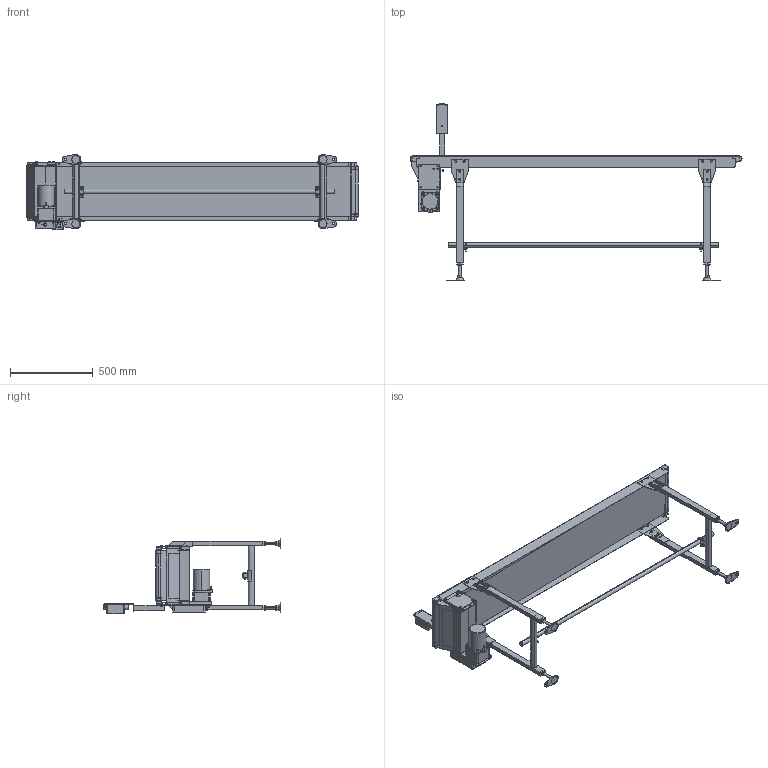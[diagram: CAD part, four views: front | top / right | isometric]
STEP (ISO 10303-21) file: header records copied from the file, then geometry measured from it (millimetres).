
FILE_DESCRIPTION( (''), '2;1');
FILE_NAME ('FSD-EUD-309-300-200-R-K-60.stp','2025-01-30T17:00:24',(''),(''),'spGate 20.6.2 (****-****-****-****)','','');
FILE_SCHEMA (('AUTOMOTIVE_DESIGN'));
Length unit declared in the file: millimetre
Products named in the file (60): NewModel; TEMP_X_T-prt0; TEMP_X_T-prt1; TEMP_X_T-prt2; TEMP_X_T-prt3; TEMP_X_T-prt4; TEMP_X_T-prt5; TEMP_X_T-prt6; TEMP_X_T-prt7; TEMP_X_T-prt8; TEMP_X_T-prt9; TEMP_X_T-prt10; TEMP_X_T-prt11; TEMP_X_T-prt12; TEMP_X_T-prt13; TEMP_X_T-prt14; TEMP_X_T-prt15; TEMP_X_T-prt16; TEMP_X_T-prt17; TEMP_X_T-prt18; TEMP_X_T-prt19; TEMP_X_T-prt20; TEMP_X_T-prt21; TEMP_X_T-prt22; TEMP_X_T-prt23; TEMP_X_T-prt24; TEMP_X_T-prt25; TEMP_X_T-prt26; TEMP_X_T-prt27; TEMP_X_T-prt28; TEMP_X_T-prt29; TEMP_X_T-prt30; TEMP_X_T-prt31; TEMP_X_T-prt32; TEMP_X_T-prt33; TEMP_X_T-prt34; TEMP_X_T-prt35; TEMP_X_T-prt36; TEMP_X_T-prt37; TEMP_X_T-prt38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
Assembly tree (59 placements, depth 2):
  NewModel
    TEMP_X_T-prt0
    TEMP_X_T-prt1
    TEMP_X_T-prt2
    TEMP_X_T-prt3
    TEMP_X_T-prt4
    TEMP_X_T-prt5
    TEMP_X_T-prt6
    TEMP_X_T-prt7
    TEMP_X_T-prt8
    TEMP_X_T-prt9
    TEMP_X_T-prt10
    TEMP_X_T-prt11
    TEMP_X_T-prt12
    TEMP_X_T-prt13
    TEMP_X_T-prt14
    TEMP_X_T-prt15
    TEMP_X_T-prt16
    TEMP_X_T-prt17
    TEMP_X_T-prt18
    TEMP_X_T-prt19
    TEMP_X_T-prt20
    TEMP_X_T-prt21
    TEMP_X_T-prt22
    TEMP_X_T-prt23
    TEMP_X_T-prt24
    TEMP_X_T-prt25
    TEMP_X_T-prt26
    TEMP_X_T-prt27
    TEMP_X_T-prt28
    TEMP_X_T-prt29
    TEMP_X_T-prt30
    TEMP_X_T-prt31
    TEMP_X_T-prt32
    TEMP_X_T-prt33
    TEMP_X_T-prt34
    TEMP_X_T-prt35
    TEMP_X_T-prt36
    TEMP_X_T-prt37
    TEMP_X_T-prt38
    TEMP_X_T-prt39
    TEMP_X_T-prt40
    TEMP_X_T-prt41
    TEMP_X_T-prt42
    TEMP_X_T-prt43
    TEMP_X_T-prt44
    TEMP_X_T-prt45
    TEMP_X_T-prt46
    TEMP_X_T-prt47
    TEMP_X_T-prt48
    TEMP_X_T-prt49
    TEMP_X_T-prt50
    TEMP_X_T-prt51
    TEMP_X_T-prt52
    TEMP_X_T-prt53
    TEMP_X_T-prt54
    TEMP_X_T-prt55
    TEMP_X_T-prt56
    TEMP_X_T-prt57
    TEMP_X_T-prt58
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Bounding box: 2001.4 x 1069.5 x 452.6 mm (x, y, z)
Volume: 17623727.5 mm3; surface area: 6339453.5 mm2
Topology: 59 solids, 59 shells, 2021 faces, 4889 edges, 3173 vertices
Faces by surface type: plane 1327, cylinder 588, bspline 106
Entity records: 101697 total; most frequent: CARTESIAN_POINT 12860, ORIENTED_EDGE 9746, DIRECTION 9731, COLOUR_RGB 6953, PRESENTATION_STYLE_ASSIGNMENT 6953, STYLED_ITEM 6953, EDGE_CURVE 4873, DRAUGHTING_PRE_DEFINED_CURVE_FONT 4873
